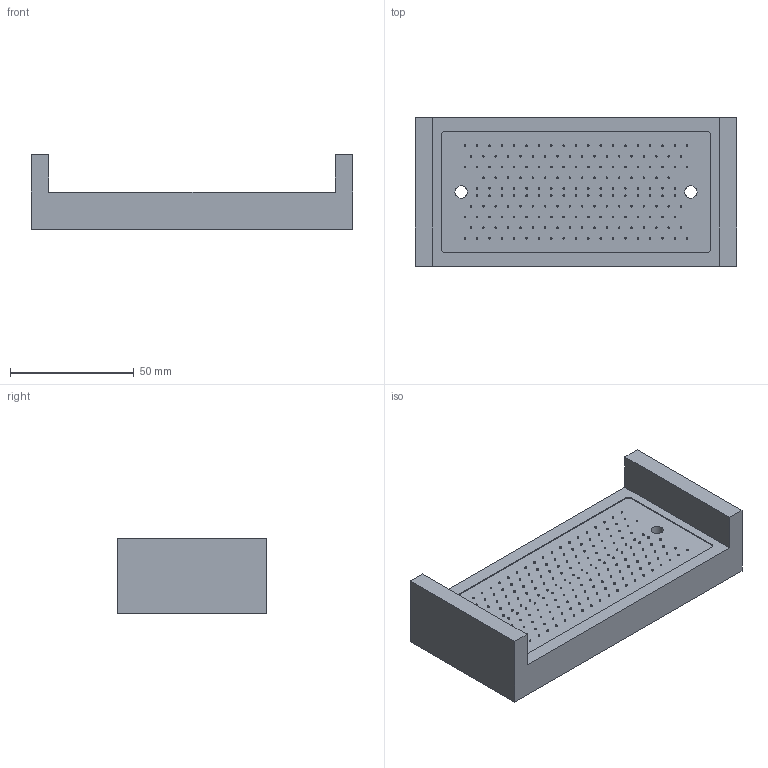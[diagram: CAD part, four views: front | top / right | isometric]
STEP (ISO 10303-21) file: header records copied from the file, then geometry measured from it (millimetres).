
FILE_DESCRIPTION(/* description */ ('Unknown','CAx-IF Rec.Pracs.---Representation and Presentation of Product Manufacturing Information (PMI)---4.0---2014-10-13','CAx-IF Rec.Pracs.---3D Tessellated Geometry---0.4---2014-09-14','2;1'),/* implementation_level */ '2;1');
FILE_NAME(/* name */ 'flow2-15U-TIM',/* time_stamp */ '2026-01-15T12:49:49+01:00',/* author */ ('Unknown'),/* organization */ ('Unknown'),/* preprocessor_version */ 'ST-DEVELOPER v20',/* originating_system */ 'Solid Edge',/* authorisation */ 'Unknown');
FILE_SCHEMA (('AP242_MANAGED_MODEL_BASED_3D_ENGINEERING_MIM_LF { 1 0 10303 442 1 1 4 }'));
Length unit declared in the file: millimetre
Products named in the file (1): flow2-15U-TIM
Bounding box: 130 x 60 x 30.1 mm (x, y, z)
Volume: 126819.1 mm3; surface area: 26259.9 mm2
Topology: 1 solids, 1 shells, 451 faces, 778 edges, 518 vertices
Faces by surface type: plane 246, cylinder 189, bspline 14, cone 2
Full cylindrical faces by diameter (mm): 0.6 x179, 3.242 x4, 5 x2
Entity records: 13931 total; most frequent: CARTESIAN_POINT 2459, DIRECTION 1823, ORIENTED_EDGE 1170, FACE_BOUND 835, EDGE_LOOP 833, AXIS2_PLACEMENT_3D 821, EDGE_CURVE 585, VERTEX_POINT 516
